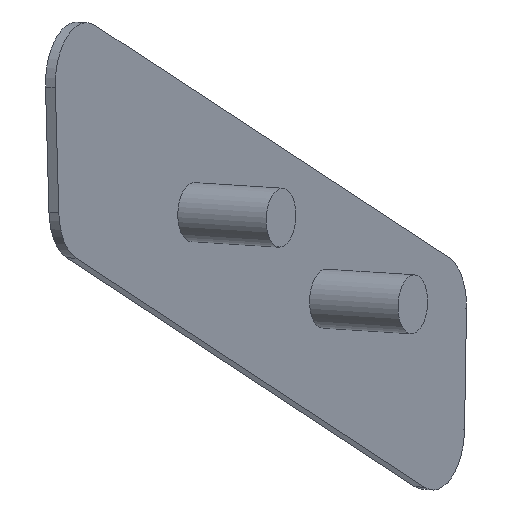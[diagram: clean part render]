
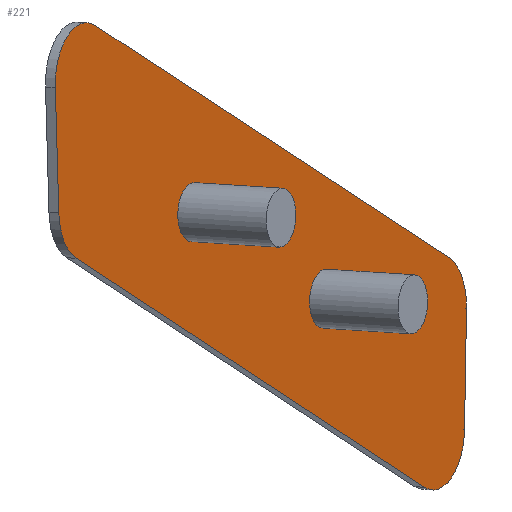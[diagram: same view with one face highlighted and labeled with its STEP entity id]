
A CAD part, front view. The second image highlights one B-rep face of the part: STEP entity #221.
In plain terms, the highlighted planar face has unit normal (0.865, -0.499, -0.055).
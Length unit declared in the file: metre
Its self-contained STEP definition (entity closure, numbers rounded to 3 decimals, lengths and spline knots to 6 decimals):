
#14=CIRCLE('',#247,0.005);
#16=CIRCLE('',#251,0.005);
#18=CIRCLE('',#255,0.005);
#20=CIRCLE('',#259,0.005);
#22=CIRCLE('',#263,0.0026);
#23=CIRCLE('',#264,0.0026);
#72=ORIENTED_EDGE('',*,*,#112,.F.);
#73=ORIENTED_EDGE('',*,*,#113,.F.);
#74=ORIENTED_EDGE('',*,*,#88,.T.);
#75=ORIENTED_EDGE('',*,*,#92,.T.);
#76=ORIENTED_EDGE('',*,*,#95,.T.);
#77=ORIENTED_EDGE('',*,*,#98,.T.);
#78=ORIENTED_EDGE('',*,*,#101,.T.);
#79=ORIENTED_EDGE('',*,*,#104,.T.);
#80=ORIENTED_EDGE('',*,*,#107,.F.);
#81=ORIENTED_EDGE('',*,*,#110,.T.);
#88=EDGE_CURVE('',#116,#117,#136,.T.);
#92=EDGE_CURVE('',#117,#120,#14,.T.);
#95=EDGE_CURVE('',#120,#122,#141,.T.);
#98=EDGE_CURVE('',#122,#124,#16,.T.);
#101=EDGE_CURVE('',#124,#126,#145,.T.);
#104=EDGE_CURVE('',#126,#128,#18,.T.);
#107=EDGE_CURVE('',#130,#128,#149,.T.);
#110=EDGE_CURVE('',#130,#116,#20,.T.);
#112=EDGE_CURVE('',#132,#132,#22,.T.);
#113=EDGE_CURVE('',#133,#133,#23,.T.);
#116=VERTEX_POINT('',#344);
#117=VERTEX_POINT('',#345);
#120=VERTEX_POINT('',#353);
#122=VERTEX_POINT('',#359);
#124=VERTEX_POINT('',#365);
#126=VERTEX_POINT('',#371);
#128=VERTEX_POINT('',#377);
#130=VERTEX_POINT('',#383);
#132=VERTEX_POINT('',#393);
#133=VERTEX_POINT('',#395);
#136=LINE('',#343,#152);
#141=LINE('',#358,#157);
#145=LINE('',#370,#161);
#149=LINE('',#382,#165);
#152=VECTOR('',#275,1.);
#157=VECTOR('',#288,1.);
#161=VECTOR('',#300,1.);
#165=VECTOR('',#312,1.);
#177=EDGE_LOOP('',(#72));
#178=EDGE_LOOP('',(#73));
#179=EDGE_LOOP('',(#74,#75,#76,#77,#78,#79,#80,#81));
#195=FACE_BOUND('',#177,.T.);
#196=FACE_BOUND('',#178,.T.);
#197=FACE_BOUND('',#179,.T.);
#209=PLANE('',#262);
#221=ADVANCED_FACE('',(#195,#196,#197),#209,.F.);
#247=AXIS2_PLACEMENT_3D('',#352,#281,#282);
#251=AXIS2_PLACEMENT_3D('',#364,#293,#294);
#255=AXIS2_PLACEMENT_3D('',#376,#305,#306);
#259=AXIS2_PLACEMENT_3D('',#388,#317,#318);
#262=AXIS2_PLACEMENT_3D('',#391,#323,#324);
#263=AXIS2_PLACEMENT_3D('',#392,#325,#326);
#264=AXIS2_PLACEMENT_3D('',#394,#327,#328);
#275=DIRECTION('',(-0.462,-0.833,0.303));
#281=DIRECTION('',(0.865,-0.499,-0.055));
#282=DIRECTION('',(0.5,0.866,0.));
#288=DIRECTION('',(0.028,0.156,-0.987));
#293=DIRECTION('',(0.865,-0.499,-0.055));
#294=DIRECTION('',(0.5,0.866,0.));
#300=DIRECTION('',(0.462,0.833,-0.303));
#305=DIRECTION('',(0.865,-0.499,-0.055));
#306=DIRECTION('',(0.5,0.866,0.));
#312=DIRECTION('',(-0.016,0.081,-0.997));
#317=DIRECTION('',(0.865,-0.499,-0.055));
#318=DIRECTION('',(0.5,0.866,0.));
#323=DIRECTION('',(-0.865,0.499,0.055));
#324=DIRECTION('',(0.498,0.866,-0.032));
#325=DIRECTION('',(0.865,-0.499,-0.055));
#326=DIRECTION('',(0.5,0.866,0.));
#327=DIRECTION('',(0.865,-0.499,-0.055));
#328=DIRECTION('',(0.5,0.866,0.));
#343=CARTESIAN_POINT('',(-0.241722,0.290165,0.49923));
#344=CARTESIAN_POINT('',(-0.225057,0.320233,0.488286));
#345=CARTESIAN_POINT('',(-0.256251,0.263949,0.508772));
#352=CARTESIAN_POINT('',(-0.257238,0.262764,0.504015));
#353=CARTESIAN_POINT('',(-0.259745,0.258503,0.503271));
#358=CARTESIAN_POINT('',(-0.259659,0.258989,0.500202));
#359=CARTESIAN_POINT('',(-0.259438,0.260247,0.49226));
#364=CARTESIAN_POINT('',(-0.25693,0.264508,0.493005));
#365=CARTESIAN_POINT('',(-0.257916,0.263323,0.488249));
#370=CARTESIAN_POINT('',(-0.24159,0.29278,0.477527));
#371=CARTESIAN_POINT('',(-0.227205,0.318736,0.46808));
#376=CARTESIAN_POINT('',(-0.226219,0.31992,0.472837));
#377=CARTESIAN_POINT('',(-0.223709,0.324234,0.473147));
#382=CARTESIAN_POINT('',(-0.223653,0.323956,0.476556));
#383=CARTESIAN_POINT('',(-0.223533,0.323362,0.48384));
#388=CARTESIAN_POINT('',(-0.226043,0.319049,0.48353));
#391=CARTESIAN_POINT('',(-0.224578,0.322252,0.477475));
#392=CARTESIAN_POINT('',(-0.247654,0.280651,0.492318));
#393=CARTESIAN_POINT('',(-0.246354,0.282902,0.492318));
#394=CARTESIAN_POINT('',(-0.236043,0.3016,0.484693));
#395=CARTESIAN_POINT('',(-0.234743,0.303851,0.484693));
